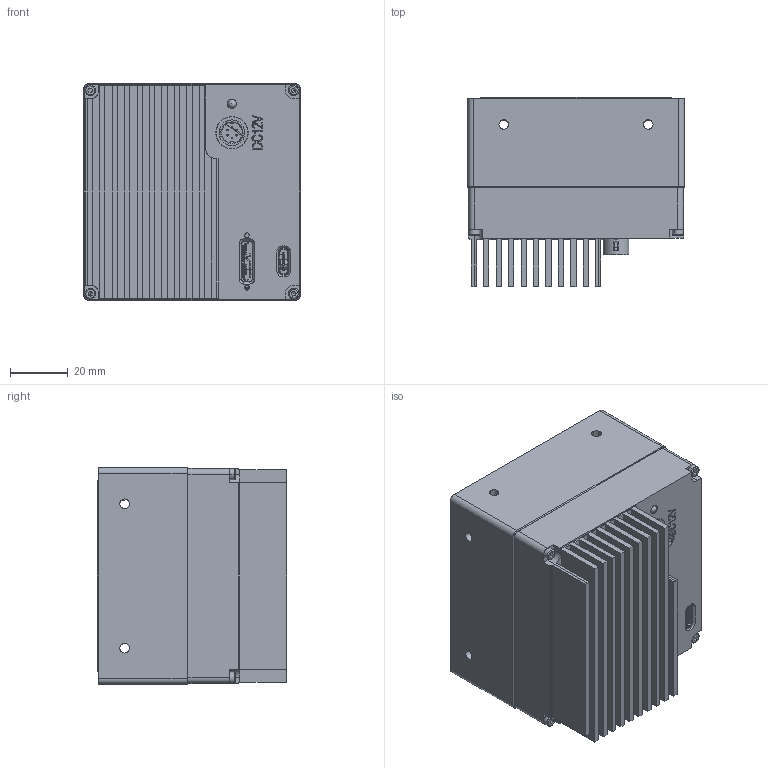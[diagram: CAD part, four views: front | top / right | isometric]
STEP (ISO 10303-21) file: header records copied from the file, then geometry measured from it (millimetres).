
FILE_DESCRIPTION (( 'STEP AP203' ), '1' );
FILE_NAME ('TS65MUSB.STEP', '2021-11-18T02:53:26', ( '微软用户' ), ( '微软中国' ), 'SwSTEP 2.0', 'SolidWorks 2017', '' );
FILE_SCHEMA (( 'CONFIG_CONTROL_DESIGN' ));
Length unit declared in the file: millimetre
Products named in the file (1): TS65MUSB
Bounding box: 75 x 65.4 x 75 mm (x, y, z)
Surface area: 59841.7 mm2 (no closed solid volume)
Topology: 0 solids, 62 shells, 491 faces, 2190 edges, 1705 vertices
Faces by surface type: plane 288, cylinder 143, cone 35, torus 16, sphere 7, bspline 2
Entity records: 23024 total; most frequent: CARTESIAN_POINT 5439, DIRECTION 3678, ORIENTED_EDGE 3044, EDGE_CURVE 2161, VERTEX_POINT 1697, VECTOR 1470, LINE 1470, AXIS2_PLACEMENT_3D 1104
